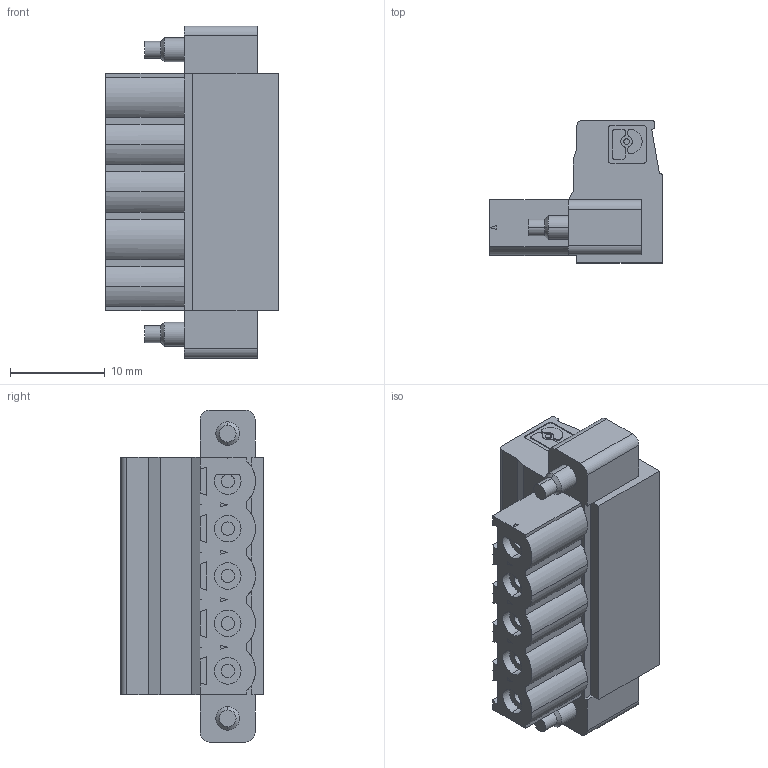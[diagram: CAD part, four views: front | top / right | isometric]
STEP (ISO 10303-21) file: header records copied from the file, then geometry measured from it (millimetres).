
FILE_DESCRIPTION (( 'STEP AP203' ), '1' );
FILE_NAME ('SRZP-02.STEP', '2020-01-23T08:04:45', ( '' ), ( '' ), 'SwSTEP 2.0', 'SolidWorks 2018', '' );
FILE_SCHEMA (( 'CONFIG_CONTROL_DESIGN' ));
Length unit declared in the file: millimetre
Products named in the file (1): SRZP-02
Bounding box: 18.2 x 15 x 35 mm (x, y, z)
Volume: 4537.1 mm3; surface area: 3078.4 mm2
Topology: 1 solids, 1 shells, 353 faces, 856 edges, 550 vertices
Faces by surface type: plane 249, cylinder 94, bspline 6, cone 4
Entity records: 10490 total; most frequent: CARTESIAN_POINT 2170, ORIENTED_EDGE 1712, DIRECTION 1683, EDGE_CURVE 856, AXIS2_PLACEMENT_3D 587, VERTEX_POINT 550, VECTOR 509, LINE 509
